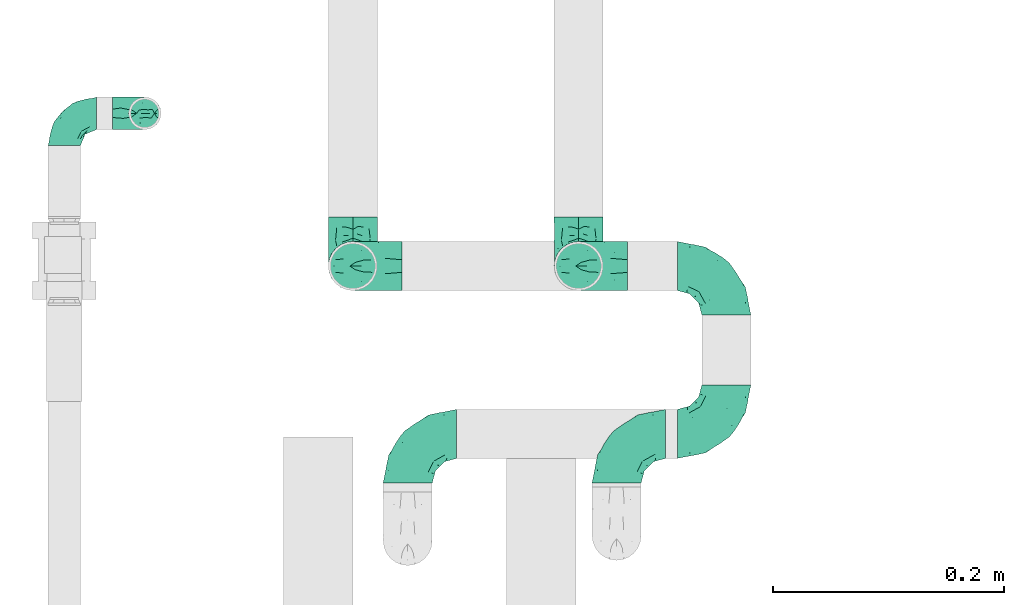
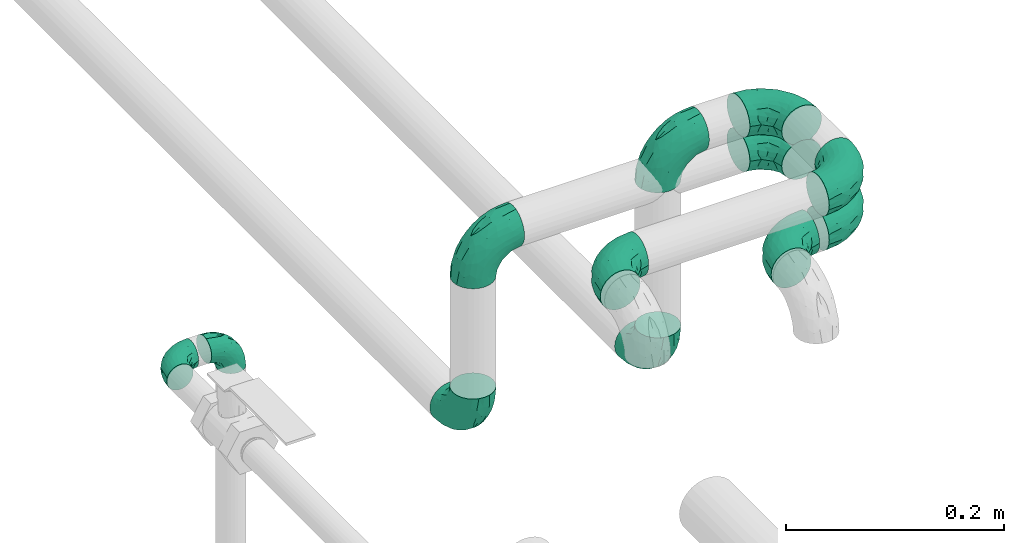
# One storey, part 16 of 35: 12 flow fittings.
"""IFC2X3 building model written with IfcOpenShell, lengths in millimetres."""

from ifc_helpers import new_model, entity, si_unit, converted_unit, derived_unit, direction, frame, origin_with_axes, place, context, subcontext, project, spatial, open_shell, surface_model, source, transform, mapped, type_object, element, save


model = new_model("IFC2X3")

# Units and contexts
model_context = context("Model", 3, precision=0.01, world=frame((0.0, 4.29681676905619e-09, 0.0)), true_north=direction((4.01073788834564e-13, 1.0)))
plan_context = context("Plan", 3, precision=0.01, world=frame((0.0, 4.29681676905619e-09, 0.0)), true_north=direction((4.01073788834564e-13, 1.0)))
body_context = subcontext(model_context, "Body", "Model", "MODEL_VIEW")
ifc_project = project(units=[converted_unit("PLANEANGLEUNIT", "DEGREE", entity("IfcPositiveLengthMeasure", 0.0174532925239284), si_unit("PLANEANGLEUNIT", "RADIAN"), dimensions=[0, 0, 0, 0, 0, 0, 0]), si_unit("AREAUNIT", "SQUARE_METRE"), si_unit("LENGTHUNIT", "METRE", prefix="MILLI"), si_unit("MASSUNIT", "GRAM", prefix="KILO"), si_unit("POWERUNIT", "WATT"), si_unit("PRESSUREUNIT", "PASCAL"), si_unit("FORCEUNIT", "NEWTON", prefix="KILO"), si_unit("ELECTRICVOLTAGEUNIT", "VOLT"), si_unit("ELECTRICCURRENTUNIT", "AMPERE"), si_unit("THERMODYNAMICTEMPERATUREUNIT", "DEGREE_CELSIUS"), si_unit("TIMEUNIT", "SECOND"), si_unit("VOLUMEUNIT", "CUBIC_METRE"), derived_unit("LINEARVELOCITYUNIT", [(si_unit("LENGTHUNIT", "METRE"), 1), (si_unit("TIMEUNIT", "SECOND"), -1)]), derived_unit("VOLUMETRICFLOWRATEUNIT", [(si_unit("VOLUMEUNIT", "CUBIC_METRE"), 1), (si_unit("TIMEUNIT", "SECOND"), -1)]), derived_unit("THERMALTRANSMITTANCEUNIT", [(si_unit("POWERUNIT", "WATT"), 1), (si_unit("THERMODYNAMICTEMPERATUREUNIT", "KELVIN"), -1), (si_unit("AREAUNIT", "SQUARE_METRE"), -1)]), derived_unit("SOUNDPRESSUREUNIT", [(si_unit("PRESSUREUNIT", "PASCAL"), 1)])], contexts=[model_context, plan_context])

# Site, building, storey
site_placement = place(None, frame((0.0, -4.29681676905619e-09, 0.0), z_axis=(0.0, 0.0, 1.0), x_axis=(1.0, 0.0, 0.0)))
site = spatial("IfcSite", under=ifc_project, at=site_placement, Name="ENGM", CompositionType="ELEMENT")
building_placement = place(site_placement, frame((0.0, 4.29681676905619e-09, 0.0), z_axis=(0.0, 0.0, 1.0), x_axis=(1.0, 0.0, 0.0)))
building = spatial("IfcBuilding", under=site, at=building_placement, Name="TH", CompositionType="ELEMENT")
storey_placement = place(building_placement, frame((0.0, 0.0, 210200.0), z_axis=(0.0, 0.0, 1.0), x_axis=(1.0, 0.0, 0.0)))
storey = spatial("IfcBuildingStorey", under=building, at=storey_placement, Name="Nivå F - 0,7 m", CompositionType="ELEMENT", Elevation=210200.0)

# Flow fittings
pipe_fitting_type_1 = type_object("IfcPipeFittingType", Name="magi_pipe_fe_elbow_short_001", PredefinedType="BEND")
shared_shape_1 = source(origin_with_axes(), body_context, "Body", "SurfaceModel", [
    surface_model("IfcShellBasedSurfaceModel", [(-42.4, 10.6, -18.35974), (-42.4, 5.48696, -20.47763), (-42.4, 0.0, -21.2), (-42.4, 14.99066, -14.99066), (-42.4, 20.47763, -5.48696), (-42.4, 18.35974, -10.6), (-42.4, -14.99066, 14.99066), (-42.4, -21.2, 0.0), (-42.4, -10.6, -18.35974), (-42.4, -14.99066, -14.99066), (-42.4, -5.48696, -20.47763), (-42.4, -18.35974, -10.6), (-42.4, -20.47763, -5.48696), (-42.4, 10.6, 18.35974), (-42.4, 20.47763, 5.48696), (-42.4, 18.35974, 10.6), (-42.4, 14.99066, 14.99066), (-42.4, 5.48696, 20.47763), (-42.4, 0.0, 21.2), (-42.4, -20.47763, 5.48696), (-42.4, -18.35974, 10.6), (-42.4, -10.6, 18.35974), (-42.4, -5.48696, 20.47763), (-42.4, 21.2, 0.0), (0.0, 42.4, -21.2), (-5.48696, 42.4, -20.47763), (-10.6, 42.4, -18.35974), (-14.99066, 42.4, -14.99066), (-18.35974, 42.4, -10.6), (-20.47763, 42.4, -5.48696), (21.2, 42.4, 0.0), (5.48696, 42.4, -20.47763), (14.99066, 42.4, -14.99066), (10.6, 42.4, -18.35974), (18.35974, 42.4, -10.6), (20.47763, 42.4, -5.48696), (14.99066, 42.4, 14.99066), (-20.47763, 42.4, 5.48696), (-10.6, 42.4, 18.35974), (-14.99066, 42.4, 14.99066), (-18.35974, 42.4, 10.6), (-5.48696, 42.4, 20.47763), (0.0, 42.4, 21.2), (18.35974, 42.4, 10.6), (20.47763, 42.4, 5.48696), (5.48696, 42.4, 20.47763), (10.6, 42.4, 18.35974), (-21.2, 42.4, 0.0), (-31.10239, -16.47009, 11.90111), (-27.83957, -12.231, 15.79732), (-30.23067, -18.77937, 0.0), (-18.74048, -13.50096, 10.69998), (-28.17586, -18.50359, 6.61185), (18.50359, 28.17586, 6.61185), (14.95929, 16.60735, 5.43468), (16.35874, 18.06133, 0.0), (-20.72313, 33.83635, 9.21426), (-17.70981, 33.00599, 13.92769), (-31.16033, -8.01664, 19.07348), (-32.38682, -2.80842, 20.83743), (-29.68688, 3.24967, 21.16387), (-7.74467, -9.46536, 0.0), (-16.60735, -14.95929, 5.43468), (-18.06133, -16.35874, 0.0), (-16.37932, -5.14532, 17.61254), (-21.10659, -0.19025, 20.54817), (-1.82445, -3.58377, 9.55223), (-0.35533, 0.43745, 12.66367), (-7.20655, -5.07682, 13.06146), (-33.14056, 17.6728, 13.91288), (-7.36799, 20.84806, 21.16196), (-15.70315, 15.70315, 20.68489), (-12.62356, 9.26422, 21.0908), (-36.67879, 12.83836, 17.27427), (-7.91358, 36.5686, 19.85759), (-2.90555, 31.71221, 21.14793), (-33.84689, 20.71971, 9.21285), (-33.51649, 22.58113, 4.66115), (-26.3226, 26.3226, 7.92474), (-32.67995, 8.31454, 20.02643), (-5.53379, 14.19921, 20.81623), (-10.53385, 3.88918, 19.79653), (-2.16577, 11.45378, 19.48254), (-3.78693, 3.78693, 17.3328), (12.231, 27.83957, 15.79732), (13.50096, 18.74047, 10.69998), (16.47009, 31.10239, 11.90111), (-22.53806, 14.38475, 19.60876), (-23.29615, 9.08095, 20.82061), (2.80842, 32.38682, 20.83743), (8.01664, 31.16033, 19.07348), (5.14532, 16.37932, 17.61254), (18.77937, 30.23067, 0.0), (-20.80278, 5.19491, 21.19095), (-19.62579, 22.38752, 17.42006), (-29.19336, 14.39093, 17.85259), (-22.31569, 34.20044, 4.54807), (-26.56962, 27.80621, 3.73106), (9.67657, 17.17133, 14.49993), (-24.04026, 31.8, 0.0), (-9.16861, 28.72652, 20.19004), (-12.09761, 21.9456, 20.37969), (-15.36991, 27.40112, 17.818), (-16.88976, 20.52477, 19.2896), (-12.95169, 35.54896, 17.36222), (-17.17133, -9.67657, 14.49993), (-21.98655, 28.10245, 11.99898), (-22.34699, 23.67592, 15.01692), (-27.22822, 22.77969, 11.82161), (0.19025, 21.10658, 20.54817), (4.8276, 7.36347, 13.42842), (-10.06209, -9.46364, 9.95114), (1.25876, -2.7536, 5.73797), (6.43781, 3.77591, 7.40371), (6.57528, 2.20066, 3.17705), (10.91934, 8.84313, 5.00748), (10.64415, 10.99764, 8.89767), (-31.8, 24.04026, 0.0), (-5.71381, -8.43063, 6.15529), (2.57199, -2.57199, 0.0), (9.46536, 7.74467, 0.0), (-17.17133, -9.67657, -14.49993), (-27.83957, -12.231, -15.79732), (-16.37932, -5.14532, -17.61254), (-18.74048, -13.50096, -10.69998), (-33.00599, 17.70981, -13.92769), (-35.54896, 12.95169, -17.36222), (-34.20044, 22.31569, -4.54807), (-28.17586, -18.50359, -6.61185), (-26.3226, 26.3226, -7.92474), (-33.83635, 20.72313, -9.21426), (-16.60735, -14.95929, -5.43468), (-20.52477, 16.88976, -19.2896), (-21.9456, 12.0976, -20.37969), (-27.40112, 15.36991, -17.818), (-12.83836, 36.67879, -17.27427), (-17.6728, 33.14056, -13.91288), (8.01664, 31.16033, -19.07348), (5.14532, 16.37932, -17.61254), (0.19025, 21.10658, -20.54817), (-36.5686, 7.91358, -19.85759), (-31.10239, -16.47009, -11.90111), (-31.16033, -8.01664, -19.07348), (-14.38475, 22.53806, -19.60876), (-8.31454, 32.67995, -20.02643), (-9.08095, 23.29615, -20.82061), (-32.38682, -2.80842, -20.83743), (-20.84806, 7.36799, -21.16196), (-15.70315, 15.70314, -20.68489), (-9.26422, 12.62356, -21.0908), (-31.71221, 2.90555, -21.14793), (-22.58113, 33.51649, -4.66115), (-20.71971, 33.84689, -9.21285), (-28.72652, 9.16861, -20.19004), (-27.80621, 26.56962, -3.73106), (-5.19491, 20.80278, -21.19095), (-22.38752, 19.62579, -17.42006), (-14.39093, 29.19336, -17.85259), (2.80842, 32.38682, -20.83743), (-3.24967, 29.68688, -21.16387), (16.47009, 31.10239, -11.90111), (12.231, 27.83957, -15.79732), (6.57528, 2.20067, -3.17705), (10.91934, 8.84313, -5.00749), (-14.19921, 5.53379, -20.81623), (-3.88918, 10.53385, -19.79653), (-11.45378, 2.16577, -19.48254), (1.25876, -2.7536, -5.73797), (-5.71381, -8.43063, -6.15529), (-1.82445, -3.58377, -9.55223), (13.50096, 18.74048, -10.69998), (18.50359, 28.17586, -6.61185), (14.95929, 16.60735, -5.43468), (-28.10245, 21.98655, -11.99898), (9.67657, 17.17133, -14.49993), (10.64415, 10.99764, -8.89767), (4.8276, 7.36347, -13.42842), (-23.67592, 22.34699, -15.01692), (-22.77969, 27.22822, -11.82161), (-21.10658, -0.19025, -20.54817), (-3.78693, 3.78693, -17.3328), (-7.20655, -5.07682, -13.06146), (-10.06209, -9.46364, -9.95113), (-0.35533, 0.43745, -12.66367), (6.43781, 3.77591, -7.40371)], [open_shell([[[0, 1, 2]], [[3, 0, 2]], [[4, 5, 3]], [[2, 4, 3]], [[6, 2, 7]], [[8, 9, 10]], [[11, 10, 9]], [[12, 7, 11]], [[2, 10, 11]], [[11, 7, 2]], [[6, 4, 2]], [[13, 14, 4]], [[15, 14, 16]], [[4, 6, 13]], [[16, 14, 13]], [[17, 13, 18]], [[19, 20, 7]], [[7, 20, 6]], [[21, 22, 6]], [[18, 6, 22]], [[6, 18, 13]], [[23, 4, 14]], [[24, 25, 26]], [[24, 26, 27]], [[27, 28, 29]], [[27, 29, 24]], [[24, 29, 30]], [[31, 32, 33]], [[31, 24, 32]], [[34, 30, 35]], [[32, 24, 34]], [[24, 30, 34]], [[29, 36, 30]], [[29, 37, 38]], [[39, 37, 40]], [[36, 29, 38]], [[38, 37, 39]], [[41, 42, 38]], [[30, 43, 44]], [[36, 43, 30]], [[36, 45, 46]], [[45, 36, 42]], [[38, 42, 36]], [[37, 29, 47]], [[6, 48, 49]], [[19, 7, 50]], [[51, 48, 52]], [[53, 54, 55]], [[48, 6, 20]], [[19, 52, 20]], [[40, 56, 57]], [[49, 21, 6]], [[49, 58, 21]], [[18, 59, 60]], [[61, 62, 63]], [[58, 64, 65]], [[66, 67, 68]], [[15, 16, 69]], [[70, 71, 72]], [[13, 73, 16]], [[22, 59, 18]], [[41, 74, 75]], [[18, 60, 17]], [[15, 69, 76]], [[16, 73, 69]], [[23, 14, 77]], [[14, 15, 76]], [[77, 76, 78]], [[17, 79, 13]], [[80, 81, 82]], [[68, 83, 64]], [[84, 36, 46]], [[85, 86, 84]], [[87, 79, 88]], [[21, 58, 22]], [[42, 89, 45]], [[53, 44, 43]], [[42, 41, 75]], [[84, 90, 91]], [[43, 86, 53]], [[92, 44, 53]], [[86, 43, 36]], [[90, 46, 45]], [[53, 55, 92]], [[88, 93, 72]], [[54, 53, 85]], [[87, 94, 95]], [[78, 96, 97]], [[98, 84, 91]], [[99, 96, 47]], [[79, 17, 60]], [[96, 78, 56]], [[62, 52, 63]], [[57, 39, 40]], [[100, 70, 75]], [[101, 102, 103]], [[19, 50, 52]], [[104, 38, 39]], [[74, 41, 38]], [[57, 102, 104]], [[105, 64, 49]], [[90, 84, 46]], [[40, 37, 56]], [[56, 106, 57]], [[102, 57, 107]], [[95, 107, 69]], [[76, 108, 78]], [[100, 101, 70]], [[89, 75, 109]], [[64, 58, 49]], [[63, 52, 50]], [[59, 58, 65]], [[105, 49, 51]], [[64, 83, 81]], [[89, 90, 45]], [[30, 44, 92]], [[109, 82, 91]], [[109, 91, 90]], [[91, 83, 110]], [[111, 68, 105]], [[66, 68, 111]], [[62, 51, 52]], [[66, 112, 113]], [[114, 115, 113]], [[98, 85, 84]], [[52, 48, 20]], [[49, 48, 51]], [[84, 86, 36]], [[53, 86, 85]], [[88, 79, 60]], [[73, 79, 95]], [[96, 56, 37]], [[78, 108, 106]], [[87, 103, 94]], [[100, 74, 104]], [[108, 69, 107]], [[78, 97, 77]], [[88, 72, 71]], [[109, 75, 70]], [[81, 72, 65]], [[70, 72, 80]], [[75, 89, 42]], [[90, 89, 109]], [[58, 59, 22]], [[60, 59, 65]], [[67, 83, 68]], [[110, 113, 116]], [[88, 60, 93]], [[87, 88, 71]], [[103, 87, 71]], [[79, 87, 95]], [[101, 103, 71]], [[94, 103, 102]], [[47, 96, 37]], [[96, 99, 97]], [[99, 117, 97]], [[97, 117, 77]], [[23, 77, 117]], [[14, 76, 77]], [[60, 65, 93]], [[65, 72, 93]], [[70, 101, 71]], [[102, 101, 100]], [[69, 108, 76]], [[106, 108, 107]], [[57, 106, 107]], [[78, 106, 56]], [[57, 104, 39]], [[100, 104, 102]], [[102, 107, 94]], [[95, 94, 107]], [[64, 81, 65]], [[82, 81, 83]], [[91, 82, 83]], [[80, 82, 109]], [[70, 80, 109]], [[81, 80, 72]], [[79, 73, 13]], [[69, 73, 95]], [[104, 74, 38]], [[75, 74, 100]], [[62, 61, 118]], [[111, 62, 118]], [[113, 115, 116]], [[119, 118, 61]], [[111, 105, 51]], [[113, 112, 114]], [[120, 55, 54]], [[68, 64, 105]], [[91, 110, 98]], [[116, 98, 110]], [[62, 111, 51]], [[66, 111, 118]], [[112, 66, 118]], [[67, 113, 110]], [[118, 119, 112]], [[114, 112, 119]], [[119, 120, 114]], [[115, 120, 54]], [[120, 115, 114]], [[116, 54, 85]], [[54, 116, 115]], [[116, 85, 98]], [[113, 67, 66]], [[83, 67, 110]], [[121, 122, 123]], [[122, 121, 124]], [[5, 125, 3]], [[3, 126, 0]], [[117, 127, 23]], [[50, 12, 128]], [[127, 129, 130]], [[128, 131, 63]], [[132, 133, 134]], [[27, 135, 136]], [[137, 138, 139]], [[0, 140, 1]], [[128, 11, 141]], [[142, 8, 10]], [[128, 63, 50]], [[5, 4, 130]], [[11, 9, 141]], [[143, 144, 145]], [[146, 10, 2]], [[147, 148, 149]], [[11, 128, 12]], [[124, 141, 122]], [[150, 2, 1]], [[151, 152, 129]], [[125, 134, 126]], [[153, 147, 150]], [[127, 154, 129]], [[145, 155, 149]], [[47, 29, 151]], [[143, 156, 157]], [[152, 29, 28]], [[24, 158, 159]], [[122, 9, 8]], [[27, 26, 135]], [[144, 26, 25]], [[32, 160, 161]], [[24, 31, 158]], [[120, 162, 163]], [[130, 125, 5]], [[27, 136, 28]], [[1, 140, 150]], [[33, 161, 137]], [[142, 122, 8]], [[24, 159, 25]], [[164, 165, 166]], [[167, 168, 169]], [[34, 160, 32]], [[161, 33, 32]], [[170, 160, 171]], [[131, 128, 124]], [[30, 92, 35]], [[35, 92, 171]], [[172, 171, 55]], [[35, 171, 34]], [[144, 25, 159]], [[130, 173, 125]], [[174, 175, 176]], [[136, 152, 28]], [[33, 137, 31]], [[122, 142, 123]], [[134, 125, 177]], [[157, 177, 136]], [[152, 178, 129]], [[153, 133, 147]], [[146, 150, 179]], [[146, 142, 10]], [[7, 12, 50]], [[179, 166, 123]], [[179, 123, 142]], [[123, 180, 181]], [[138, 137, 161]], [[55, 171, 92]], [[158, 137, 139]], [[174, 161, 170]], [[138, 180, 165]], [[180, 138, 176]], [[124, 121, 182]], [[176, 183, 180]], [[61, 131, 168]], [[169, 168, 182]], [[172, 170, 171]], [[122, 141, 9]], [[128, 141, 124]], [[171, 160, 34]], [[161, 160, 170]], [[145, 144, 159]], [[135, 144, 157]], [[127, 130, 4]], [[129, 178, 173]], [[143, 132, 156]], [[153, 140, 126]], [[178, 136, 177]], [[129, 154, 151]], [[145, 149, 148]], [[179, 150, 147]], [[165, 149, 139]], [[147, 149, 164]], [[150, 146, 2]], [[142, 146, 179]], [[137, 158, 31]], [[159, 158, 139]], [[174, 138, 161]], [[184, 169, 183]], [[145, 159, 155]], [[143, 145, 148]], [[132, 143, 148]], [[144, 143, 157]], [[133, 132, 148]], [[156, 132, 134]], [[23, 127, 4]], [[127, 117, 154]], [[117, 99, 154]], [[154, 99, 151]], [[47, 151, 99]], [[29, 152, 151]], [[159, 139, 155]], [[139, 149, 155]], [[147, 133, 148]], [[134, 133, 153]], [[136, 178, 152]], [[173, 178, 177]], [[125, 173, 177]], [[129, 173, 130]], [[125, 126, 3]], [[153, 126, 134]], [[134, 177, 156]], [[157, 156, 177]], [[138, 165, 139]], [[166, 165, 180]], [[123, 166, 180]], [[164, 166, 179]], [[147, 164, 179]], [[165, 164, 149]], [[144, 135, 26]], [[136, 135, 157]], [[126, 140, 0]], [[150, 140, 153]], [[182, 131, 124]], [[168, 119, 61]], [[119, 167, 162]], [[63, 131, 61]], [[172, 163, 175]], [[172, 55, 120]], [[123, 181, 121]], [[182, 121, 181]], [[175, 174, 170]], [[176, 138, 174]], [[169, 182, 181]], [[131, 182, 168]], [[183, 169, 181]], [[167, 169, 184]], [[162, 167, 184]], [[119, 168, 167]], [[163, 162, 184]], [[120, 119, 162]], [[175, 163, 184]], [[120, 163, 172]], [[176, 175, 184]], [[172, 175, 170]], [[180, 183, 181]], [[184, 183, 176]]])]),
])
for number, where, z_axis, x_axis, name in (
    (1, (895447.40675, 480110.09284, 3225.76131), (0.0, 0.0, 1.0), (-1.0, 0.0, 0.0), "magi_pipe_fe_elbow_short_001"),
    (2, (895628.1602, 480110.09284, 3187.0), (0.0, 0.0, 1.0), (-1.0, 0.0, 0.0), "magi_pipe_fe_elbow_short_001"),
    (3, (895723.1602, 480110.09284, 3187.0), (0.0, 0.0, 1.0), (1.0, 0.0, 0.0), "magi_pipe_fe_elbow_short_001"),
    (4, (895399.93442, 480255.36097, 2978.79999999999), (-1.0, 0.0, 0.0), (0.0, -1.0, 0.0), "magi_pipe_fe_elbow_short_001"),
    (5, (895399.93442, 480255.36097, 3187.0), (0.0, 1.0, 0.0), (0.0, 0.0, 1.0), "magi_pipe_fe_elbow_short_001"),
    (6, (895723.1602, 480255.36097, 3187.0), (0.0, 0.0, 1.0), (0.0, 1.0, 0.0), "magi_pipe_fe_elbow_short_001"),
    (7, (895723.1602, 480110.09284, 3225.76131), (0.0, 0.0, 1.0), (1.0, 0.0, 0.0), "magi_pipe_fe_elbow_short_001"),
    (8, (895595.39181, 480255.36097, 2978.79999999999), (-1.0, 0.0, 0.0), (0.0, -1.0, 0.0), "magi_pipe_fe_elbow_short_001"),
    (9, (895595.39181, 480255.36097, 3225.79999999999), (0.0, 1.0, 0.0), (0.0, 0.0, 1.0), "magi_pipe_fe_elbow_short_001"),
    (10, (895723.1602, 480255.36097, 3225.79999999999), (0.0, -0.000375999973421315, 0.999999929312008), (0.0, 0.999999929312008, 0.000375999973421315), "magi_pipe_fe_elbow_short_001"),
):
    element("IfcFlowFitting", number, at=place(storey_placement, frame(where, z_axis=z_axis, x_axis=x_axis)), inside=storey, type_object=pipe_fitting_type_1, Name=name, context=body_context, shape_type="MappedRepresentation", body=[
        mapped(shared_shape_1, transform((0.0, 0.0, 0.0), scale=1.0)),
    ])
pipe_fitting_type_2 = type_object("IfcPipeFittingType", Name="magi_pipe_cu_elbow_short_001", PredefinedType="BEND")
shared_shape_2 = source(origin_with_axes(), body_context, "Body", "SurfaceModel", [
    surface_model("IfcShellBasedSurfaceModel", [(-28.0, 3.62347, -13.52296), (-28.0, 0.0, -14.0), (-28.0, 13.52296, -3.62347), (-28.0, 7.0, -12.12436), (-28.0, 9.89949, -9.89949), (-28.0, 12.12436, -7.0), (-28.0, -9.89949, 9.89949), (-28.0, -13.52296, -3.62347), (-28.0, -7.0, -12.12436), (-28.0, -9.89949, -9.89949), (-28.0, -3.62347, -13.52296), (-28.0, -12.12436, -7.0), (-28.0, -14.0, 0.0), (-28.0, -13.52296, 3.62347), (-28.0, 13.52296, 3.62347), (-28.0, 14.0, 0.0), (-28.0, 3.62347, 13.52296), (-28.0, 12.12436, 7.0), (-28.0, 9.89949, 9.89949), (-28.0, 7.0, 12.12436), (-28.0, 0.0, 14.0), (-28.0, -12.12436, 7.0), (-28.0, -3.62347, 13.52296), (-28.0, -7.0, 12.12436), (-13.52296, 28.0, -3.62347), (0.0, 28.0, -14.0), (-3.62347, 28.0, -13.52296), (-9.89949, 28.0, -9.89949), (-7.0, 28.0, -12.12436), (-12.12436, 28.0, -7.0), (13.52296, 28.0, -3.62347), (-9.89949, 28.0, 9.89949), (3.62347, 28.0, -13.52296), (9.89949, 28.0, -9.89949), (7.0, 28.0, -12.12436), (12.12436, 28.0, -7.0), (13.52296, 28.0, 3.62347), (14.0, 28.0, 0.0), (-13.52296, 28.0, 3.62347), (-12.12436, 28.0, 7.0), (-7.0, 28.0, 12.12436), (-3.62347, 28.0, 13.52296), (9.89949, 28.0, 9.89949), (0.0, 28.0, 14.0), (12.12436, 28.0, 7.0), (7.0, 28.0, 12.12436), (3.62347, 28.0, 13.52296), (-14.0, 28.0, 0.0), (-18.74729, -12.24672, 4.38175), (-20.4978, -10.87112, 7.8554), (-14.63098, -10.41778, 0.0), (-11.36869, -10.18884, 3.09687), (5.89274, 4.32805, 4.24468), (3.06694, 4.04075, 8.35629), (-0.17293, -0.734, 7.21134), (-12.21635, -8.85831, 7.04954), (-3.77138, -5.46958, 4.31404), (-21.31549, -12.20889, 0.0), (6.34939, 11.25924, 9.57712), (8.06481, 18.3168, 10.42711), (3.37486, 10.81192, 11.64293), (-18.31681, -8.06481, 10.42711), (-20.56266, -5.29223, 12.59496), (-21.38752, -1.85462, 13.76057), (-19.60454, 2.14601, 13.97614), (-10.81192, -3.37486, 11.64293), (-13.93831, -0.12564, 13.56955), (-21.5811, 5.49074, 13.225), (-21.95612, 11.65158, 9.17996), (-20.05772, 14.63261, 6.40071), (-24.5084, 13.14639, 5.80116), (-14.41344, 20.50581, 6.33709), (-4.86565, 13.76759, 13.97488), (-10.37, 10.37, 13.65983), (-8.33631, 6.11788, 13.92788), (-14.75744, 15.63504, 9.91683), (-24.22185, 8.47816, 11.40754), (-3.65439, 9.37683, 13.74657), (-6.95631, 2.56833, 13.07318), (-1.43023, 7.56381, 12.86583), (-23.31553, 14.32852, 3.52781), (-21.69779, 16.61046, 0.0), (-5.22595, 24.14907, 13.1135), (-1.91876, 20.94202, 13.96561), (5.29223, 20.56266, 12.59496), (-4.80832, -3.33944, 8.67628), (-2.5008, 2.5008, 11.44619), (1.85462, 21.38752, 13.76057), (10.87112, 20.4978, 7.8554), (8.85831, 12.21635, 7.04954), (12.24672, 18.74729, 4.38175), (-11.25924, -6.34939, 9.57712), (-15.37363, 21.10999, 3.25616), (-19.14983, 16.6358, 3.33834), (10.18884, 11.36869, 3.09687), (10.41778, 14.63098, 0.0), (12.20889, 21.31549, 0.0), (-18.10051, 18.10051, 0.0), (8.37307, 7.0, 0.0), (-11.50288, 18.59955, 10.71326), (-8.84699, 21.68272, 11.60426), (-11.55739, 22.32322, 9.13967), (-10.58943, 15.13428, 12.47628), (-6.05474, 18.97034, 13.33304), (-14.9522, 12.56273, 11.63436), (-7.0, -8.37307, 0.0), (-15.38425, 5.99686, 13.74946), (-13.73768, 3.4306, 13.99403), (-14.88363, 9.49937, 12.94918), (-8.15523, 14.5327, 13.41132), (0.12564, 13.93831, 13.56955), (-19.27864, 9.50344, 11.78944), (-1.06605, 0.88351, 9.56863), (-3.83005, -4.31684, 6.58349), (-3.15673, -4.5298, 0.0), (1.6378, -1.17307, 3.37596), (-16.61046, 21.69779, 0.0), (4.5298, 3.15673, 0.0), (0.68653, -0.68653, 0.0), (-22.16307, 1.77021, -13.95443), (-12.1112, 20.49304, -9.34219), (-20.84882, -12.5942, -4.60988), (-21.54235, 5.49691, -13.22664), (-19.10898, 16.60593, -3.53067), (-11.43732, -3.53319, -11.74569), (-12.15681, -0.17464, -13.31564), (-5.62502, -0.23427, -11.47155), (-20.32556, 9.17949, -11.70878), (-22.13531, 11.60457, -9.16028), (8.41708, 20.6911, -10.6019), (-16.88435, 12.82951, -10.55878), (-11.13704, -10.24959, -2.34743), (-4.84185, -6.54661, -3.36137), (-12.96604, 16.27159, -10.78023), (-9.97005, 17.11892, -12.15817), (-12.93887, 12.93887, -12.29249), (-1.2334, -2.64201, -5.92074), (1.22973, 2.47088, -8.8979), (5.16596, 4.11707, -5.50974), (-13.82252, 8.10203, -13.53774), (-19.77353, -10.77046, -7.78839), (-20.6911, -8.41708, -10.6019), (-5.71492, 20.3686, -13.27579), (12.5942, 20.84882, -4.60988), (-23.64458, -5.51923, -12.7416), (-12.09227, -8.27186, -7.82819), (-10.45313, -5.71095, -9.79365), (0.58937, 6.57638, -11.67536), (0.17464, 12.15681, -13.31564), (2.89353, 11.95196, -12.23037), (-23.72828, 14.45075, -2.39672), (-13.72718, 22.21732, -6.10198), (-14.65489, 22.72001, -3.11815), (10.77046, 19.77353, -7.78839), (-4.94234, 4.94234, -13.21976), (-17.01297, 16.64546, -6.86733), (-1.77021, 22.16307, -13.95443), (-8.78719, 21.97882, -11.58143), (1.76523, 20.62648, -13.74402), (5.51923, 23.64458, -12.7416), (-20.62648, -1.76523, -13.74402), (-17.72962, -4.83155, -12.45127), (-3.30956, 15.42318, -13.99698), (-7.57019, 8.16927, -13.99205), (-8.28388, 13.27199, -13.5833), (-6.87455, -6.54348, -6.32219), (9.88737, 10.40056, -2.49707), (6.89392, 5.1145, -2.73992), (0.30381, -2.5875, -3.00478), (-22.38273, 13.76108, -5.90633), (9.77824, 12.19087, -5.31295), (8.70689, 13.51955, -8.04189), (5.71095, 10.45313, -9.79365), (4.83155, 17.72962, -12.45127), (-4.06757, -2.72494, -8.72853), (6.23857, 7.82545, -7.6266), (-15.42318, 3.30956, -13.99698), (-16.05025, 23.05025, 0.0), (-12.19087, -9.77824, -5.31295), (3.79914, 1.24839, -3.50098), (-15.61294, 15.85577, -9.08381)], [open_shell([[[0, 1, 2]], [[3, 0, 4]], [[2, 5, 4]], [[0, 2, 4]], [[6, 1, 7]], [[8, 9, 10]], [[9, 1, 10]], [[11, 7, 9]], [[9, 7, 1]], [[12, 13, 7]], [[2, 1, 6]], [[14, 15, 16]], [[17, 14, 18]], [[16, 19, 18]], [[14, 16, 18]], [[20, 16, 15]], [[21, 6, 13]], [[6, 7, 13]], [[22, 20, 23]], [[6, 23, 20]], [[2, 6, 20]], [[15, 2, 20]], [[24, 25, 26]], [[27, 26, 28]], [[27, 29, 24]], [[27, 24, 26]], [[30, 25, 31]], [[32, 33, 34]], [[32, 25, 33]], [[33, 30, 35]], [[25, 30, 33]], [[30, 36, 37]], [[31, 25, 24]], [[24, 38, 31]], [[31, 38, 39]], [[31, 40, 41]], [[31, 42, 30]], [[41, 43, 31]], [[36, 42, 44]], [[30, 42, 36]], [[45, 43, 46]], [[43, 45, 42]], [[31, 43, 42]], [[24, 47, 38]], [[48, 49, 21]], [[48, 50, 51]], [[52, 53, 54]], [[55, 51, 56]], [[49, 6, 21]], [[57, 48, 13]], [[58, 59, 60]], [[61, 23, 6]], [[61, 62, 23]], [[20, 63, 64]], [[62, 65, 66]], [[59, 42, 45]], [[20, 22, 63]], [[67, 19, 16]], [[68, 69, 70]], [[39, 38, 71]], [[72, 73, 74]], [[69, 68, 75]], [[20, 64, 16]], [[19, 76, 18]], [[17, 18, 68]], [[77, 78, 79]], [[80, 81, 15]], [[41, 82, 83]], [[45, 84, 59]], [[85, 86, 65]], [[46, 43, 87]], [[88, 89, 90]], [[91, 65, 61]], [[43, 41, 83]], [[71, 92, 93]], [[90, 94, 95]], [[84, 45, 46]], [[88, 90, 44]], [[59, 84, 60]], [[36, 44, 90]], [[75, 71, 69]], [[23, 62, 22]], [[90, 96, 36]], [[97, 81, 93]], [[94, 98, 95]], [[92, 97, 93]], [[50, 48, 57]], [[70, 14, 17]], [[99, 100, 101]], [[31, 101, 100]], [[40, 31, 100]], [[102, 103, 100]], [[103, 72, 83]], [[82, 100, 103]], [[82, 41, 40]], [[99, 104, 102]], [[15, 14, 80]], [[67, 16, 64]], [[51, 50, 105]], [[48, 21, 13]], [[49, 55, 61]], [[44, 42, 88]], [[89, 52, 94]], [[106, 107, 74]], [[108, 67, 106]], [[31, 39, 101]], [[109, 102, 73]], [[103, 109, 72]], [[87, 83, 110]], [[76, 68, 18]], [[68, 111, 104]], [[65, 62, 61]], [[63, 62, 66]], [[91, 61, 55]], [[65, 86, 78]], [[87, 84, 46]], [[110, 79, 60]], [[110, 60, 84]], [[86, 112, 60]], [[55, 49, 48]], [[61, 6, 49]], [[42, 59, 88]], [[89, 88, 59]], [[106, 67, 64]], [[76, 67, 111]], [[53, 52, 89]], [[112, 86, 85]], [[56, 113, 55]], [[112, 54, 53]], [[58, 89, 59]], [[56, 51, 105]], [[114, 115, 56]], [[14, 70, 80]], [[69, 71, 93]], [[47, 116, 92]], [[92, 116, 97]], [[39, 71, 101]], [[75, 101, 71]], [[99, 102, 100]], [[108, 104, 111]], [[106, 74, 73]], [[110, 83, 72]], [[78, 74, 66]], [[72, 74, 77]], [[83, 87, 43]], [[84, 87, 110]], [[62, 63, 22]], [[64, 63, 66]], [[13, 12, 57]], [[96, 90, 95]], [[96, 37, 36]], [[115, 117, 52]], [[56, 105, 114]], [[55, 48, 51]], [[89, 94, 90]], [[52, 98, 94]], [[106, 64, 107]], [[108, 106, 73]], [[102, 108, 73]], [[67, 108, 111]], [[102, 104, 108]], [[68, 104, 75]], [[64, 66, 107]], [[66, 74, 107]], [[65, 78, 66]], [[79, 78, 86]], [[60, 79, 86]], [[77, 79, 110]], [[72, 77, 110]], [[78, 77, 74]], [[67, 76, 19]], [[68, 76, 111]], [[100, 82, 40]], [[83, 82, 103]], [[68, 70, 17]], [[80, 69, 93]], [[69, 80, 70]], [[80, 93, 81]], [[55, 85, 91]], [[85, 65, 91]], [[60, 53, 58]], [[53, 89, 58]], [[54, 112, 85]], [[60, 112, 53]], [[85, 113, 54]], [[113, 115, 54]], [[55, 113, 85]], [[115, 113, 56]], [[71, 38, 92]], [[115, 114, 118]], [[47, 92, 38]], [[101, 75, 99]], [[99, 75, 104]], [[72, 109, 73]], [[103, 102, 109]], [[54, 115, 52]], [[117, 115, 118]], [[117, 98, 52]], [[0, 119, 1]], [[29, 27, 120]], [[121, 57, 7]], [[3, 122, 0]], [[97, 123, 81]], [[124, 125, 126]], [[127, 4, 128]], [[33, 129, 34]], [[127, 128, 130]], [[131, 132, 105]], [[133, 134, 135]], [[127, 3, 4]], [[136, 137, 138]], [[139, 122, 127]], [[4, 5, 128]], [[11, 140, 121]], [[141, 140, 9]], [[26, 142, 28]], [[95, 143, 96]], [[144, 8, 10]], [[145, 141, 146]], [[30, 37, 96]], [[147, 148, 149]], [[140, 11, 9]], [[15, 81, 150]], [[130, 133, 135]], [[151, 152, 24]], [[153, 35, 143]], [[147, 154, 148]], [[24, 29, 151]], [[120, 155, 151]], [[33, 153, 129]], [[25, 156, 26]], [[26, 156, 142]], [[143, 35, 30]], [[27, 28, 157]], [[123, 152, 155]], [[158, 32, 159]], [[144, 160, 161]], [[122, 3, 127]], [[148, 162, 158]], [[157, 28, 142]], [[162, 163, 164]], [[159, 32, 34]], [[165, 136, 132]], [[35, 153, 33]], [[166, 98, 167]], [[160, 10, 1]], [[161, 160, 125]], [[95, 166, 143]], [[50, 131, 105]], [[121, 7, 11]], [[168, 114, 132]], [[150, 169, 2]], [[167, 98, 117]], [[32, 158, 25]], [[164, 142, 162]], [[133, 157, 134]], [[9, 8, 141]], [[165, 145, 146]], [[170, 171, 153]], [[129, 172, 173]], [[126, 137, 174]], [[175, 137, 172]], [[148, 158, 173]], [[156, 158, 162]], [[149, 172, 147]], [[148, 154, 163]], [[119, 160, 1]], [[176, 163, 125]], [[176, 125, 160]], [[125, 154, 126]], [[169, 128, 5]], [[127, 130, 135]], [[139, 127, 135]], [[119, 122, 176]], [[120, 151, 29]], [[152, 97, 177]], [[142, 164, 134]], [[120, 27, 157]], [[152, 47, 24]], [[81, 123, 150]], [[123, 155, 169]], [[152, 123, 97]], [[140, 178, 121]], [[121, 178, 131]], [[144, 141, 8]], [[146, 141, 161]], [[30, 96, 143]], [[170, 153, 143]], [[129, 153, 171]], [[159, 129, 173]], [[137, 147, 172]], [[126, 154, 147]], [[172, 171, 175]], [[174, 137, 136]], [[137, 126, 147]], [[126, 146, 124]], [[117, 118, 179]], [[179, 138, 167]], [[128, 169, 155]], [[5, 2, 169]], [[57, 121, 50]], [[57, 12, 7]], [[122, 119, 0]], [[160, 119, 176]], [[158, 156, 25]], [[142, 156, 162]], [[162, 148, 163]], [[139, 135, 164]], [[125, 163, 154]], [[139, 163, 176]], [[163, 139, 164]], [[122, 139, 176]], [[155, 180, 128]], [[180, 120, 133]], [[180, 133, 130]], [[157, 133, 120]], [[142, 134, 157]], [[164, 135, 134]], [[128, 180, 130]], [[120, 180, 155]], [[152, 151, 155]], [[47, 152, 177]], [[169, 150, 123]], [[15, 150, 2]], [[121, 131, 50]], [[178, 165, 132]], [[178, 132, 131]], [[168, 132, 136]], [[145, 165, 178]], [[174, 165, 146]], [[178, 140, 145]], [[141, 145, 140]], [[179, 136, 138]], [[170, 166, 167]], [[168, 179, 118]], [[170, 167, 138]], [[143, 166, 170]], [[95, 98, 166]], [[117, 179, 167]], [[136, 179, 168]], [[129, 159, 34]], [[158, 159, 173]], [[160, 144, 10]], [[141, 144, 161]], [[175, 170, 138]], [[129, 171, 172]], [[170, 175, 171]], [[137, 175, 138]], [[148, 173, 149]], [[172, 149, 173]], [[165, 174, 136]], [[126, 174, 146]], [[146, 161, 124]], [[125, 124, 161]], [[114, 168, 118]], [[114, 105, 132]]])]),
])
for number, where, z_axis, x_axis, name in (
    (11, (895150.16007, 480387.5, 3055.47382000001), (0.0, 0.0, 1.0), (-1.0, 0.0, 0.0), "magi_pipe_cu_elbow_short_001"),
    (12, (895219.90262, 480387.5, 3055.47382000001), (0.0, -1.0, 0.0), (0.0, 0.0, 1.0), "magi_pipe_cu_elbow_short_001"),
):
    element("IfcFlowFitting", number, at=place(storey_placement, frame(where, z_axis=z_axis, x_axis=x_axis)), inside=storey, type_object=pipe_fitting_type_2, Name=name, context=body_context, shape_type="MappedRepresentation", body=[
        mapped(shared_shape_2, transform((0.0, 0.0, 0.0), scale=1.0)),
    ])

save(model, "model.ifc")
